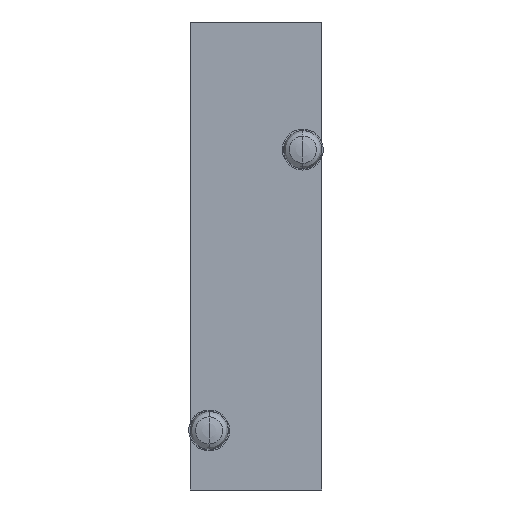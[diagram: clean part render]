
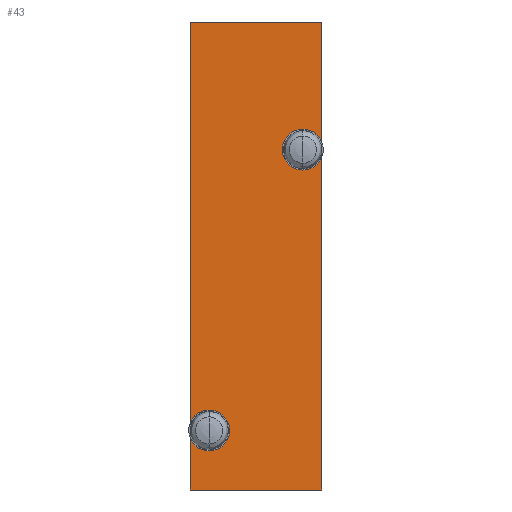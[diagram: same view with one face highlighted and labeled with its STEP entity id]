
A CAD part, front view. The second image highlights one B-rep face of the part: STEP entity #43.
In plain terms, the highlighted planar face has unit normal (0, -1, 0).
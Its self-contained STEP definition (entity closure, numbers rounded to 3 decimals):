
#43=ADVANCED_FACE('',(#97),#96,.F.);
#96=PLANE('',#346);
#97=FACE_OUTER_BOUND('',#347,.T.);
#343=CARTESIAN_POINT('',(-9.3,0.,-5.5));
#344=DIRECTION('',(0.,1.,0.));
#345=DIRECTION('',(0.,0.,1.));
#346=AXIS2_PLACEMENT_3D('',#343,#344,#345);
#347=EDGE_LOOP('',(#582,#583,#584,#585,#586,#587,#588,#589,#590,#591,#592,#593));
#582=ORIENTED_EDGE('',*,*,#691,.T.);
#583=ORIENTED_EDGE('',*,*,#692,.T.);
#584=ORIENTED_EDGE('',*,*,#693,.T.);
#585=ORIENTED_EDGE('',*,*,#694,.T.);
#586=ORIENTED_EDGE('',*,*,#695,.T.);
#587=ORIENTED_EDGE('',*,*,#696,.T.);
#588=ORIENTED_EDGE('',*,*,#680,.T.);
#589=ORIENTED_EDGE('',*,*,#697,.T.);
#590=ORIENTED_EDGE('',*,*,#698,.T.);
#591=ORIENTED_EDGE('',*,*,#699,.T.);
#592=ORIENTED_EDGE('',*,*,#684,.T.);
#593=ORIENTED_EDGE('',*,*,#686,.T.);
#680=EDGE_CURVE('',#736,#737,#738,.T.);
#684=EDGE_CURVE('',#765,#758,#766,.T.);
#686=EDGE_CURVE('',#758,#778,#779,.T.);
#691=EDGE_CURVE('',#778,#811,#812,.T.);
#692=EDGE_CURVE('',#811,#818,#819,.T.);
#693=EDGE_CURVE('',#818,#825,#826,.T.);
#694=EDGE_CURVE('',#825,#832,#833,.T.);
#695=EDGE_CURVE('',#832,#839,#840,.T.);
#696=EDGE_CURVE('',#839,#736,#846,.T.);
#697=EDGE_CURVE('',#737,#852,#853,.T.);
#698=EDGE_CURVE('',#852,#859,#860,.T.);
#699=EDGE_CURVE('',#859,#765,#866,.T.);
#736=VERTEX_POINT('',#1106);
#737=VERTEX_POINT('',#1107);
#738=LINE('',#1108,#1109);
#758=VERTEX_POINT('',#1119);
#765=VERTEX_POINT('',#1123);
#766=LINE('',#1124,#1125);
#778=VERTEX_POINT('',#1130);
#779=LINE('',#1131,#1132);
#811=VERTEX_POINT('',#1148);
#812=LINE('',#1149,#1150);
#818=VERTEX_POINT('',#1152);
#819=CIRCLE('',#1156,2.4);
#825=VERTEX_POINT('',#1157);
#826=CIRCLE('',#1161,2.4);
#832=VERTEX_POINT('',#1162);
#833=CIRCLE('',#1166,2.4);
#839=VERTEX_POINT('',#1167);
#840=LINE('',#1168,#1169);
#846=LINE('',#1171,#1172);
#852=VERTEX_POINT('',#1174);
#853=CIRCLE('',#1178,2.4);
#859=VERTEX_POINT('',#1179);
#860=CIRCLE('',#1183,2.4);
#866=CIRCLE('',#1187,2.4);
#1106=CARTESIAN_POINT('',(-7.75,0.,55.));
#1107=CARTESIAN_POINT('',(-7.75,0.,7.835));
#1108=CARTESIAN_POINT('',(-7.75,0.,55.));
#1109=VECTOR('',#1110,47.165);
#1110=DIRECTION('',(0.,0.,-1.));
#1119=CARTESIAN_POINT('',(-7.75,0.,0.));
#1123=CARTESIAN_POINT('',(-7.75,0.,6.165));
#1124=CARTESIAN_POINT('',(-7.75,0.,6.165));
#1125=VECTOR('',#1126,6.165);
#1126=DIRECTION('',(0.,0.,-1.));
#1130=CARTESIAN_POINT('',(7.75,0.,0.));
#1131=CARTESIAN_POINT('',(-7.75,0.,0.));
#1132=VECTOR('',#1133,15.5);
#1133=DIRECTION('',(1.,0.,0.));
#1148=CARTESIAN_POINT('',(7.75,0.,39.165));
#1149=CARTESIAN_POINT('',(7.75,0.,0.));
#1150=VECTOR('',#1151,39.165);
#1151=DIRECTION('',(0.,0.,1.));
#1152=CARTESIAN_POINT('',(5.5,0.,37.6));
#1153=CARTESIAN_POINT('',(5.5,0.,40.));
#1154=DIRECTION('',(0.,1.,0.));
#1155=DIRECTION('',(0.938,0.,-0.348));
#1156=AXIS2_PLACEMENT_3D('',#1153,#1154,#1155);
#1157=CARTESIAN_POINT('',(5.5,0.,42.4));
#1158=CARTESIAN_POINT('',(5.5,0.,40.));
#1159=DIRECTION('',(0.,1.,0.));
#1160=DIRECTION('',(0.938,0.,-0.348));
#1161=AXIS2_PLACEMENT_3D('',#1158,#1159,#1160);
#1162=CARTESIAN_POINT('',(7.75,0.,40.835));
#1163=CARTESIAN_POINT('',(5.5,0.,40.));
#1164=DIRECTION('',(0.,1.,0.));
#1165=DIRECTION('',(0.938,0.,-0.348));
#1166=AXIS2_PLACEMENT_3D('',#1163,#1164,#1165);
#1167=CARTESIAN_POINT('',(7.75,0.,55.));
#1168=CARTESIAN_POINT('',(7.75,0.,40.835));
#1169=VECTOR('',#1170,14.165);
#1170=DIRECTION('',(0.,0.,1.));
#1171=CARTESIAN_POINT('',(7.75,0.,55.));
#1172=VECTOR('',#1173,15.5);
#1173=DIRECTION('',(-1.,0.,0.));
#1174=CARTESIAN_POINT('',(-5.5,0.,9.4));
#1175=CARTESIAN_POINT('',(-5.5,0.,7.));
#1176=DIRECTION('',(0.,1.,0.));
#1177=DIRECTION('',(-0.938,0.,0.348));
#1178=AXIS2_PLACEMENT_3D('',#1175,#1176,#1177);
#1179=CARTESIAN_POINT('',(-5.5,0.,4.6));
#1180=CARTESIAN_POINT('',(-5.5,0.,7.));
#1181=DIRECTION('',(0.,1.,0.));
#1182=DIRECTION('',(-0.938,0.,0.348));
#1183=AXIS2_PLACEMENT_3D('',#1180,#1181,#1182);
#1184=CARTESIAN_POINT('',(-5.5,0.,7.));
#1185=DIRECTION('',(0.,1.,0.));
#1186=DIRECTION('',(-0.938,0.,0.348));
#1187=AXIS2_PLACEMENT_3D('',#1184,#1185,#1186);
